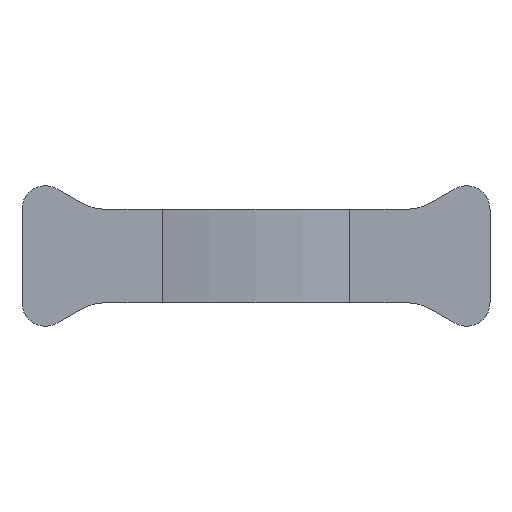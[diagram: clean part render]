
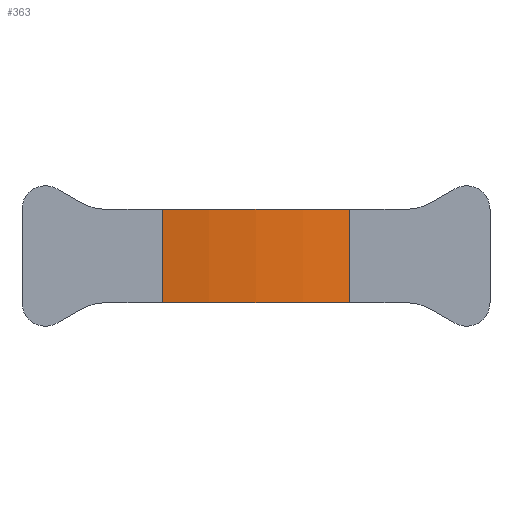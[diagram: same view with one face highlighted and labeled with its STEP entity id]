
A CAD part, top view. The second image highlights one B-rep face of the part: STEP entity #363.
In plain terms, the highlighted cylindrical face has radius 100 mm (diameter 200 mm), a partial arc.
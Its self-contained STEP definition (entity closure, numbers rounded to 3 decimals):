
#26=FACE_OUTER_BOUND('',#46,.T.);
#46=EDGE_LOOP('',(#246,#247,#248,#249));
#66=LINE('',#555,#102);
#67=LINE('',#558,#103);
#102=VECTOR('',#441,10.);
#103=VECTOR('',#444,10.);
#138=CIRCLE('',#398,100.);
#139=CIRCLE('',#399,100.);
#156=VERTEX_POINT('',#551);
#157=VERTEX_POINT('',#552);
#158=VERTEX_POINT('',#554);
#159=VERTEX_POINT('',#556);
#192=EDGE_CURVE('',#156,#157,#138,.T.);
#193=EDGE_CURVE('',#158,#157,#66,.T.);
#194=EDGE_CURVE('',#159,#158,#139,.T.);
#195=EDGE_CURVE('',#156,#159,#67,.T.);
#246=ORIENTED_EDGE('',*,*,#192,.T.);
#247=ORIENTED_EDGE('',*,*,#193,.F.);
#248=ORIENTED_EDGE('',*,*,#194,.F.);
#249=ORIENTED_EDGE('',*,*,#195,.F.);
#354=CYLINDRICAL_SURFACE('',#397,100.);
#363=ADVANCED_FACE('',(#26),#354,.T.);
#397=AXIS2_PLACEMENT_3D('',#550,#437,#438);
#398=AXIS2_PLACEMENT_3D('',#553,#439,#440);
#399=AXIS2_PLACEMENT_3D('',#557,#442,#443);
#437=DIRECTION('center_axis',(0.,1.,0.));
#438=DIRECTION('ref_axis',(0.2,0.,0.98));
#439=DIRECTION('center_axis',(0.,-1.,0.));
#440=DIRECTION('ref_axis',(0.2,0.,0.98));
#441=DIRECTION('',(0.,1.,0.));
#442=DIRECTION('center_axis',(0.,-1.,0.));
#443=DIRECTION('ref_axis',(0.2,0.,0.98));
#444=DIRECTION('',(0.,-1.,0.));
#550=CARTESIAN_POINT('Origin',(0.,0.,
-94.98));
#551=CARTESIAN_POINT('',(20.,20.,3.));
#552=CARTESIAN_POINT('',(-20.,20.,3.));
#553=CARTESIAN_POINT('Origin',(0.,20.,-94.98));
#554=CARTESIAN_POINT('',(-20.,0.,3.));
#555=CARTESIAN_POINT('',(-20.,0.,3.));
#556=CARTESIAN_POINT('',(20.,0.,3.));
#557=CARTESIAN_POINT('Origin',(0.,0.,
-94.98));
#558=CARTESIAN_POINT('',(20.,0.,3.));
